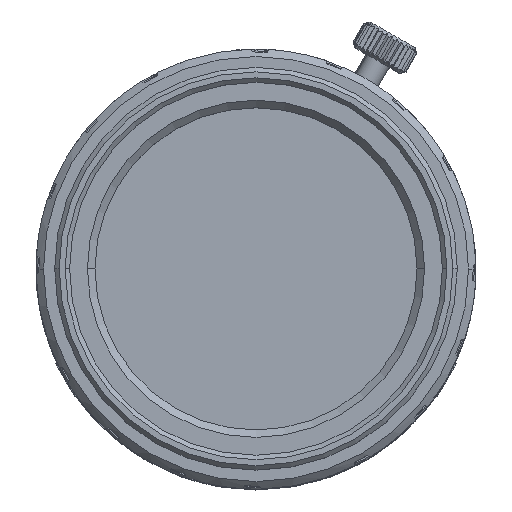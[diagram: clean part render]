
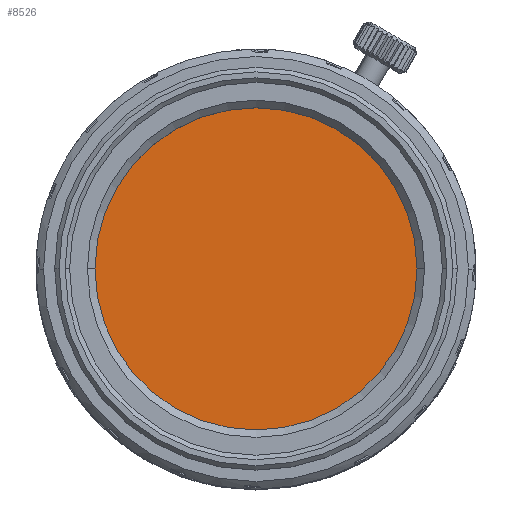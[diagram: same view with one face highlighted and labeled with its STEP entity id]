
A CAD part, top view. The second image highlights one B-rep face of the part: STEP entity #8526.
In plain terms, the highlighted planar face has unit normal (0, 0, 1).
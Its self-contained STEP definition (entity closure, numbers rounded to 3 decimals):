
#757 = VERTEX_POINT ( 'NONE', #7657 ) ;
#1913 = ORIENTED_EDGE ( 'NONE', *, *, #4441, .T. ) ;
#2923 = DIRECTION ( 'NONE',  ( 0., 0., 1. ) ) ;
#4441 = EDGE_CURVE ( 'NONE', #757, #5847, #21569, .T. ) ;
#4632 = PLANE ( 'NONE',  #24310 ) ;
#5389 = AXIS2_PLACEMENT_3D ( 'NONE', #26264, #13166, #28494 ) ;
#5847 = VERTEX_POINT ( 'NONE', #13433 ) ;
#7015 = CARTESIAN_POINT ( 'NONE',  ( 0., 0., 60.5 ) ) ;
#7657 = CARTESIAN_POINT ( 'NONE',  ( -10.884, 0., 60.5 ) ) ;
#8526 = ADVANCED_FACE ( 'NONE', ( #17448 ), #4632, .T. ) ;
#9315 = DIRECTION ( 'NONE',  ( 1., 0., 0. ) ) ;
#11325 = EDGE_CURVE ( 'NONE', #5847, #757, #16566, .T. ) ;
#11596 = ORIENTED_EDGE ( 'NONE', *, *, #11325, .T. ) ;
#11844 = AXIS2_PLACEMENT_3D ( 'NONE', #16432, #2923, #18615 ) ;
#13166 = DIRECTION ( 'NONE',  ( 0., 0., 1. ) ) ;
#13433 = CARTESIAN_POINT ( 'NONE',  ( 10.884, 0., 60.5 ) ) ;
#16432 = CARTESIAN_POINT ( 'NONE',  ( 0., 0., 60.5 ) ) ;
#16566 = CIRCLE ( 'NONE', #5389, 10.884 ) ;
#17448 = FACE_OUTER_BOUND ( 'NONE', #19393, .T. ) ;
#18615 = DIRECTION ( 'NONE',  ( 1., 0., 0. ) ) ;
#19393 = EDGE_LOOP ( 'NONE', ( #11596, #1913 ) ) ;
#21569 = CIRCLE ( 'NONE', #11844, 10.884 ) ;
#22555 = DIRECTION ( 'NONE',  ( 0., 0., 1. ) ) ;
#24310 = AXIS2_PLACEMENT_3D ( 'NONE', #7015, #22555, #9315 ) ;
#26264 = CARTESIAN_POINT ( 'NONE',  ( 0., 0., 60.5 ) ) ;
#28494 = DIRECTION ( 'NONE',  ( 1., 0., 0. ) ) ;
